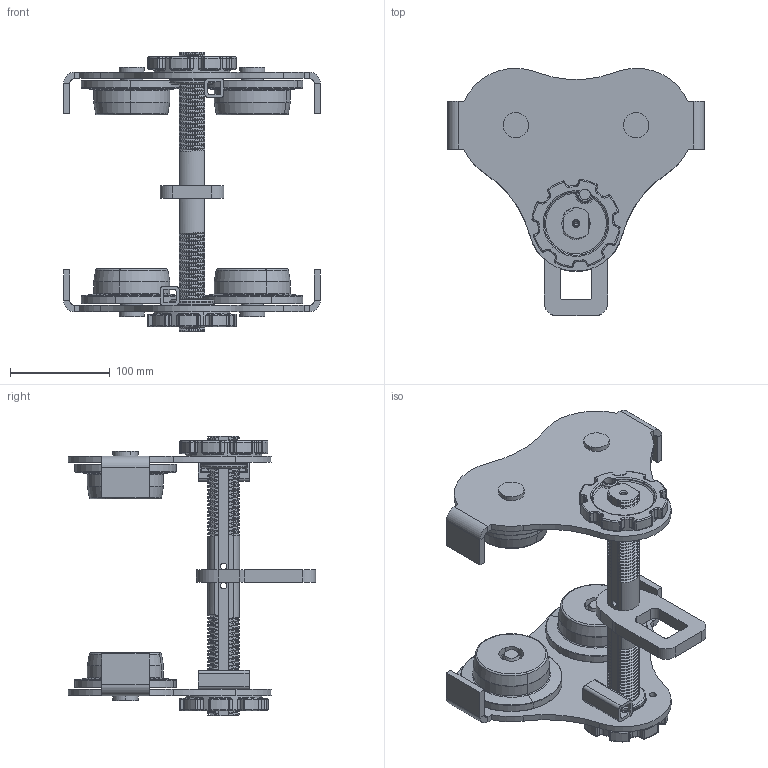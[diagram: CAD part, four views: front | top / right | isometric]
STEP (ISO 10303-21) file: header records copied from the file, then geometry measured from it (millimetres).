
FILE_DESCRIPTION (( 'STEP AP214' ), '1' );
FILE_NAME ('OZ1PBTA.STEP', '2023-03-16T13:25:54', ( '' ), ( '' ), 'SwSTEP 2.0', 'SolidWorks 2021', '' );
FILE_SCHEMA (( 'AUTOMOTIVE_DESIGN' ));
Length unit declared in the file: inch
Products named in the file (8): OT001020; OZ1PBTA; OT001001; OT001005; OT001014; OT001006; OT001007; OT001003_Finished Part
Assembly tree (16 placements, depth 2):
  OZ1PBTA
    OT001007  x2
    OT001006  x4
    OT001001  x4
    OT001003_Finished Part  x2
    OT001005
    OT001020
    OT001014  x2
Bounding box: 257.18 x 247.61 x 279.4 mm (x, y, z)
Volume: 1486354.3 mm3; surface area: 379526.6 mm2
Topology: 16 solids, 16 shells, 1254 faces, 3124 edges, 1868 vertices
Faces by surface type: cylinder 475, bspline 256, torus 202, plane 189, sphere 80, cone 52
Entity records: 360080 total; most frequent: CARTESIAN_POINT 343026, ORIENTED_EDGE 3958, DIRECTION 2795, EDGE_CURVE 1979, VERTEX_POINT 1235, AXIS2_PLACEMENT_3D 1102, EDGE_LOOP 810, ADVANCED_FACE 769
